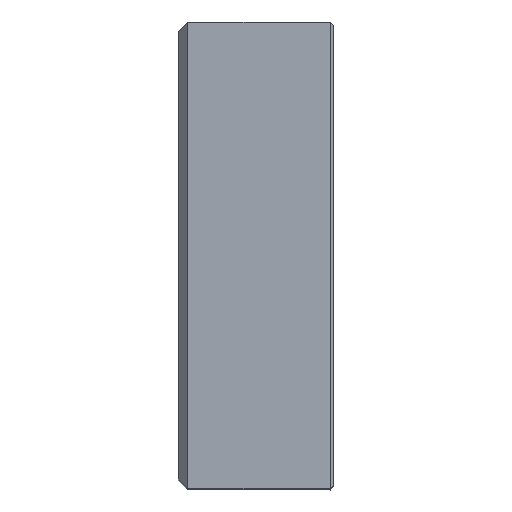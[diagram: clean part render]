
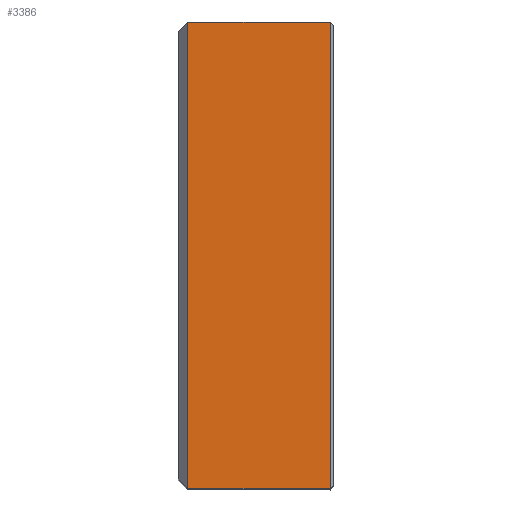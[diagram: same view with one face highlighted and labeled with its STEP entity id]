
A CAD part, top view. The second image highlights one B-rep face of the part: STEP entity #3386.
In plain terms, the highlighted planar face has unit normal (0, 0, 1).
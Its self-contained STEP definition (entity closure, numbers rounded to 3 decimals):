
#287=VERTEX_POINT(' ',#288);
#288=CARTESIAN_POINT('',(49.,-75.,0.));
#297=VERTEX_POINT(' ',#298);
#298=CARTESIAN_POINT('',(49.,75.,0.));
#331=VERTEX_POINT(' ',#332);
#332=CARTESIAN_POINT('',(3.,-75.,0.));
#339=VERTEX_POINT(' ',#340);
#340=CARTESIAN_POINT('',(3.,75.,0.));
#1629=LINE('',#1630,#1631);
#1630=CARTESIAN_POINT('',(49.,80.657,0.));
#1631=VECTOR('',#1632,1.);
#1632=DIRECTION('',(0.,-1.,0.));
#1633=EDGE_CURVE(' ',#297,#287,#1629,.T.);
#1793=LINE('',#1794,#1795);
#1794=CARTESIAN_POINT('',(50.12,-75.,0.));
#1795=VECTOR('',#1796,1.);
#1796=DIRECTION('',(-1.,0.,0.));
#1797=EDGE_CURVE(' ',#287,#331,#1793,.T.);
#1832=LINE('',#1833,#1834);
#1833=CARTESIAN_POINT('',(3.,-88.971,0.));
#1834=VECTOR('',#1835,1.);
#1835=DIRECTION('',(0.,1.,0.));
#1836=EDGE_CURVE(' ',#331,#339,#1832,.T.);
#1837=LINE('',#1838,#1839);
#1838=CARTESIAN_POINT('',(50.12,75.,0.));
#1839=VECTOR('',#1840,1.);
#1840=DIRECTION('',(-1.,0.,0.));
#1841=EDGE_CURVE(' ',#297,#339,#1837,.T.);
#3375=ORIENTED_EDGE('',*,*,#1836,.F.);
#3376=ORIENTED_EDGE('',*,*,#1797,.F.);
#3377=ORIENTED_EDGE('',*,*,#1633,.F.);
#3378=ORIENTED_EDGE('',*,*,#1841,.T.);
#3379=EDGE_LOOP('',(#3375,#3376,#3377,#3378));
#3380=FACE_OUTER_BOUND('',#3379,.T.);
#3381=PLANE('',#3382);
#3382=AXIS2_PLACEMENT_3D('',#3383,#3384,#3385);
#3383=CARTESIAN_POINT('',(0.,-75.,0.));
#3384=DIRECTION('',(0.,0.,1.));
#3385=DIRECTION('',(0.,1.,0.));
#3386=ADVANCED_FACE('',(#3380),#3381,.T.);
